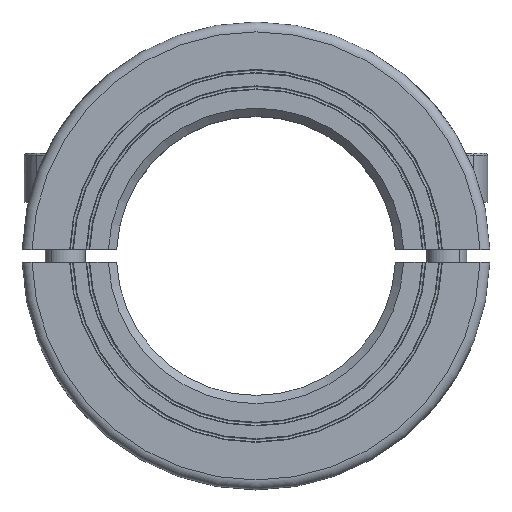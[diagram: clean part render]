
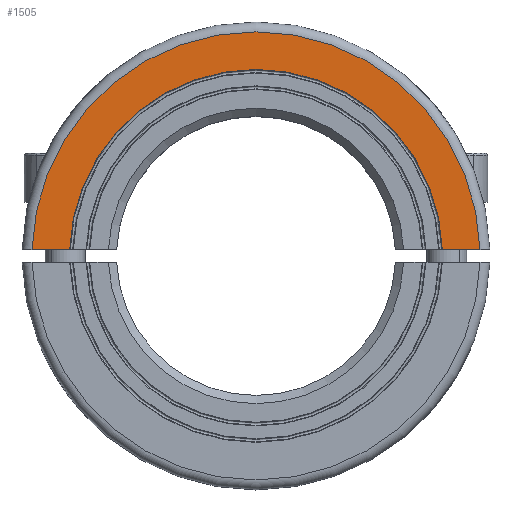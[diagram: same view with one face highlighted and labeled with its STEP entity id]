
A CAD part, top view. The second image highlights one B-rep face of the part: STEP entity #1505.
In plain terms, the highlighted planar face has unit normal (0, 0, 1).
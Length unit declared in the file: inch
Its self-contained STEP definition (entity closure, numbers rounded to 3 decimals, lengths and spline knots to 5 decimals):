
#127=CARTESIAN_POINT('',(1.07434,0.0313,0.59055));
#279=DIRECTION('',(-1.,0.,0.));
#280=VECTOR('',#279,0.18041);
#281=CARTESIAN_POINT('',(-0.89394,0.03132,
0.59055));
#282=LINE('',#281,#280);
#380=CARTESIAN_POINT('',(0.,0.,0.59055));
#381=DIRECTION('',(0.,0.,1.));
#382=DIRECTION('',(1.,0.029,0.));
#383=AXIS2_PLACEMENT_3D('',#380,#381,#382);
#385=DIRECTION('',(1.,0.,0.));
#386=VECTOR('',#385,0.18041);
#387=CARTESIAN_POINT('',(0.89394,0.03131,
0.59055));
#388=LINE('',#387,#386);
#394=CARTESIAN_POINT('',(0.,0.,0.59055));
#395=DIRECTION('',(0.,0.,-1.));
#396=DIRECTION('',(-0.999,0.035,0.));
#397=AXIS2_PLACEMENT_3D('',#394,#395,#396);
#399=CARTESIAN_POINT('',(0.89394,0.03131,
0.59055));
#883=VERTEX_POINT('',#127);
#886=VERTEX_POINT('',#399);
#933=CARTESIAN_POINT('',(-0.89394,0.03132,
0.59055));
#934=CARTESIAN_POINT('',(-1.07434,0.0313,
0.59055));
#935=VERTEX_POINT('',#933);
#936=VERTEX_POINT('',#934);
#1493=CARTESIAN_POINT('',(0.,0.,0.59055));
#1494=DIRECTION('',(0.,0.,1.));
#1495=DIRECTION('',(0.707,-0.707,0.));
#1496=AXIS2_PLACEMENT_3D('',#1493,#1494,#1495);
#1497=PLANE('',#1496);
#1499=ORIENTED_EDGE('',*,*,#1498,.F.);
#1500=ORIENTED_EDGE('',*,*,#1459,.T.);
#1501=ORIENTED_EDGE('',*,*,#1137,.F.);
#1502=ORIENTED_EDGE('',*,*,#1160,.F.);
#1503=EDGE_LOOP('',(#1499,#1500,#1501,#1502));
#1504=FACE_OUTER_BOUND('',#1503,.F.);
#384=CIRCLE('',#383,1.0748);
#398=CIRCLE('',#397,0.89449);
#1137=EDGE_CURVE('',#883,#936,#384,.T.);
#1160=EDGE_CURVE('',#886,#883,#388,.T.);
#1459=EDGE_CURVE('',#935,#936,#282,.T.);
#1498=EDGE_CURVE('',#935,#886,#398,.T.);
#1505=ADVANCED_FACE('',(#1504),#1497,.T.);
